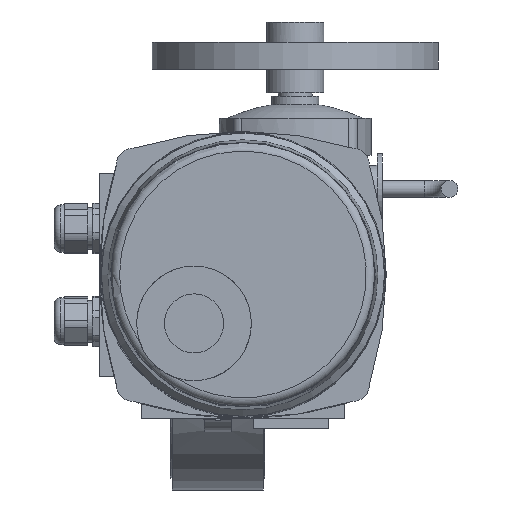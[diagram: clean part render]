
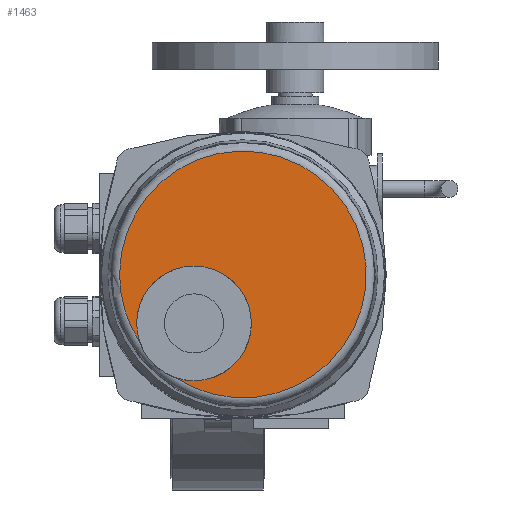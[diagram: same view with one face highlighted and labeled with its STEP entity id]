
A CAD part, top view. The second image highlights one B-rep face of the part: STEP entity #1463.
In plain terms, the highlighted planar face has unit normal (0, 0, 1).
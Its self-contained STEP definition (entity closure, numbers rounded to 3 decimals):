
#1463=ADVANCED_FACE('',(#8904),#8906,.T.);
#8904=FACE_BOUND('',#8905,.T.);
#8905=EDGE_LOOP('',(#15047,#15048,#15049,#15050));
#8906=PLANE('',#8907);
#8907=AXIS2_PLACEMENT_3D('',#8908,#8909,#8910);
#8908=CARTESIAN_POINT('',(15.,35.,447.));
#8909=DIRECTION('',(0.,0.,1.));
#8910=DIRECTION('',(-1.,0.,0.));
#15047=ORIENTED_EDGE('',*,*,#19321,.F.);
#15048=ORIENTED_EDGE('',*,*,#19322,.F.);
#15049=ORIENTED_EDGE('',*,*,#19303,.F.);
#15050=ORIENTED_EDGE('',*,*,#19302,.F.);
#19302=EDGE_CURVE('',#21898,#21901,#21902,.T.);
#19303=EDGE_CURVE('',#21901,#21899,#21903,.T.);
#19321=EDGE_CURVE('',#21926,#21898,#21927,.T.);
#19322=EDGE_CURVE('',#21899,#21926,#21928,.T.);
#21898=VERTEX_POINT('',#26971);
#21899=VERTEX_POINT('',#26972);
#21901=VERTEX_POINT('',#27001);
#21902=CIRCLE('',#27002,73.139);
#21903=CIRCLE('',#27006,73.139);
#21926=VERTEX_POINT('',#27083);
#21927=CIRCLE('',#27084,34.);
#21928=CIRCLE('',#27088,34.);
#26971=CARTESIAN_POINT('',(-46.08,-5.231,447.));
#26972=CARTESIAN_POINT('',(-25.231,-26.08,447.));
#27001=CARTESIAN_POINT('',(-58.139,35.,447.));
#27002=AXIS2_PLACEMENT_3D('',#27003,#27004,#27005);
#27003=CARTESIAN_POINT('',(15.,35.,447.));
#27004=DIRECTION('',(0.,0.,-1.));
#27005=DIRECTION('',(-0.835,-0.55,0.));
#27006=AXIS2_PLACEMENT_3D('',#27007,#27008,#27009);
#27007=CARTESIAN_POINT('',(15.,35.,447.));
#27008=DIRECTION('',(0.,0.,-1.));
#27009=DIRECTION('',(-1.,0.,0.));
#27083=CARTESIAN_POINT('',(-13.991,40.009,447.));
#27084=AXIS2_PLACEMENT_3D('',#27085,#27086,#27087);
#27085=CARTESIAN_POINT('',(-13.991,6.009,447.));
#27086=DIRECTION('',(0.,0.,1.));
#27087=DIRECTION('',(0.,1.,0.));
#27088=AXIS2_PLACEMENT_3D('',#27089,#27090,#27091);
#27089=CARTESIAN_POINT('',(-13.991,6.009,447.));
#27090=DIRECTION('',(0.,0.,1.));
#27091=DIRECTION('',(-0.331,-0.944,0.));
